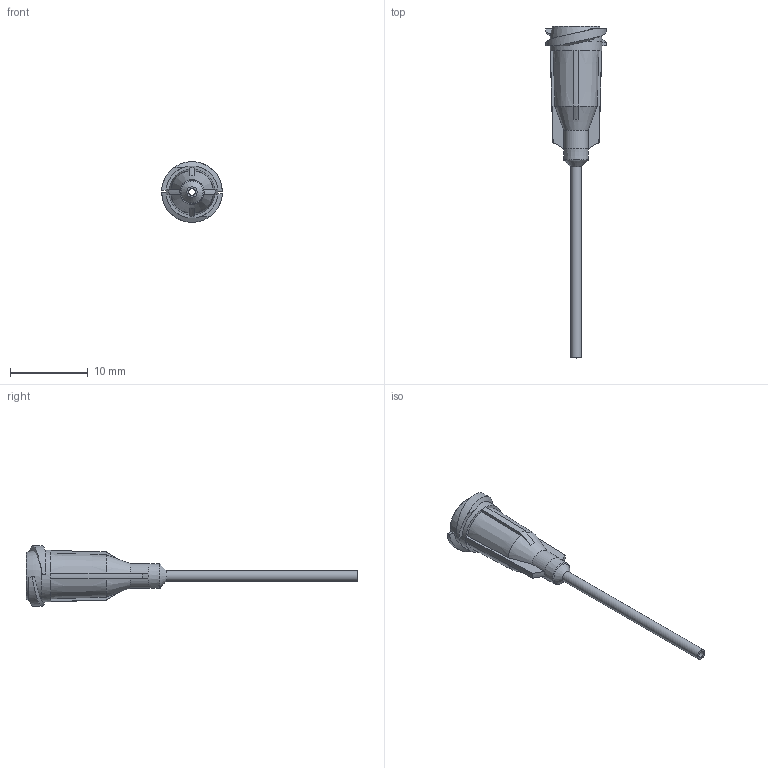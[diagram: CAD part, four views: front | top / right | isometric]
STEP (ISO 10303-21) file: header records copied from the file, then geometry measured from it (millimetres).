
FILE_DESCRIPTION (( 'STEP AP214' ), '1' );
FILE_NAME ('DAV PP 18 10.STEP', '2023-09-28T15:13:48', ( '' ), ( '' ), 'SwSTEP 2.0', 'SolidWorks 2022', '' );
FILE_SCHEMA (( 'AUTOMOTIVE_DESIGN' ));
Length unit declared in the file: millimetre
Products named in the file (1): DAV PP 18 10
Bounding box: 7.82 x 42.77 x 7.81 mm (x, y, z)
Volume: 282.9 mm3; surface area: 710 mm2
Topology: 1 solids, 1 shells, 63 faces, 161 edges, 101 vertices
Faces by surface type: plane 23, cone 16, bspline 10, cylinder 7, torus 7
Full cylindrical faces by diameter (mm): 0.84 x1, 1.35 x1, 2.87 x1, 6.655 x1
Entity records: 2066 total; most frequent: CARTESIAN_POINT 796, ORIENTED_EDGE 262, DIRECTION 228, EDGE_CURVE 131, AXIS2_PLACEMENT_3D 99, VERTEX_POINT 89, EDGE_LOOP 80, FACE_OUTER_BOUND 71
